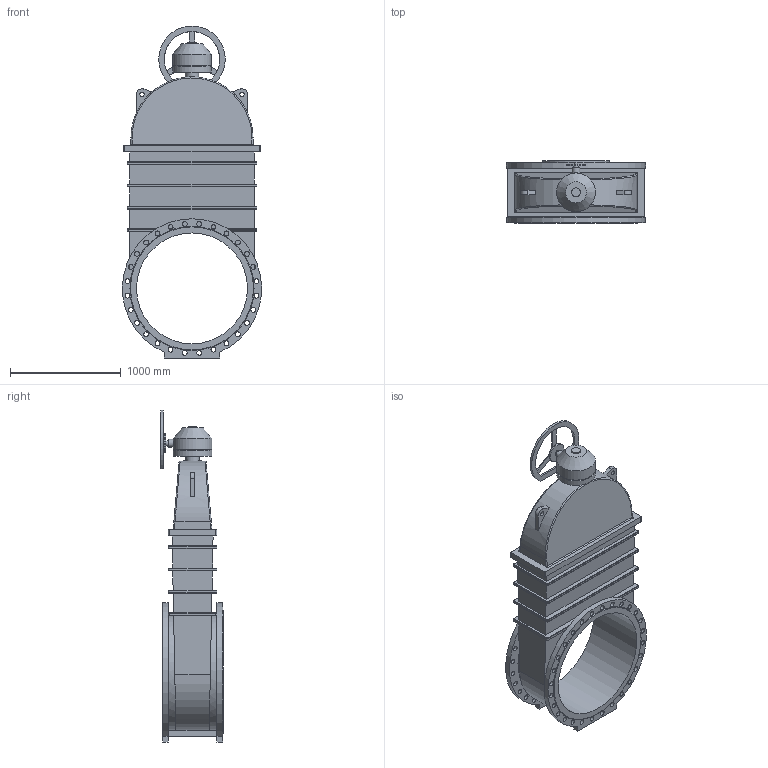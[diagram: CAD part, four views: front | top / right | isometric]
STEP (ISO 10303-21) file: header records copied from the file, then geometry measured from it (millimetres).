
FILE_DESCRIPTION(('STEP AP203'), '1');
FILE_NAME('Çàäâèæêà 47GV DN1000 PN16_L550 + ðåäóêòîð ñ ìàõîâèêîì', '', ('UNSPECIFIED'), ('UNSPECIFIED'), 'ASCON STEP Converter 1.6', 'ASCON Math Kernel', '');
FILE_SCHEMA(('CONFIG_CONTROL_DESIGN'));
Length unit declared in the file: millimetre
Bounding box: 1254.27 x 560 x 2992.5 mm (x, y, z)
Volume: 658616406.1 mm3; surface area: 11755579.2 mm2
Topology: 1 solids, 1 shells, 297 faces, 738 edges, 469 vertices
Faces by surface type: cylinder 144, plane 114, bspline 36, cone 3
Full cylindrical faces by diameter (mm): 30 x1, 40 x2, 44 x56, 50 x1, 70 x1, 80 x1, 100 x1, 120 x1, 175 x1, 330 x1, 350 x2, 1000 x1
Entity records: 14470 total; most frequent: CARTESIAN_POINT 5179, DIRECTION 1359, ORIENTED_EDGE 1332, EDGE_CURVE 666, AXIS2_PLACEMENT_3D 523, EDGE_LOOP 519, VERTEX_POINT 469, FACE_BOUND 376
